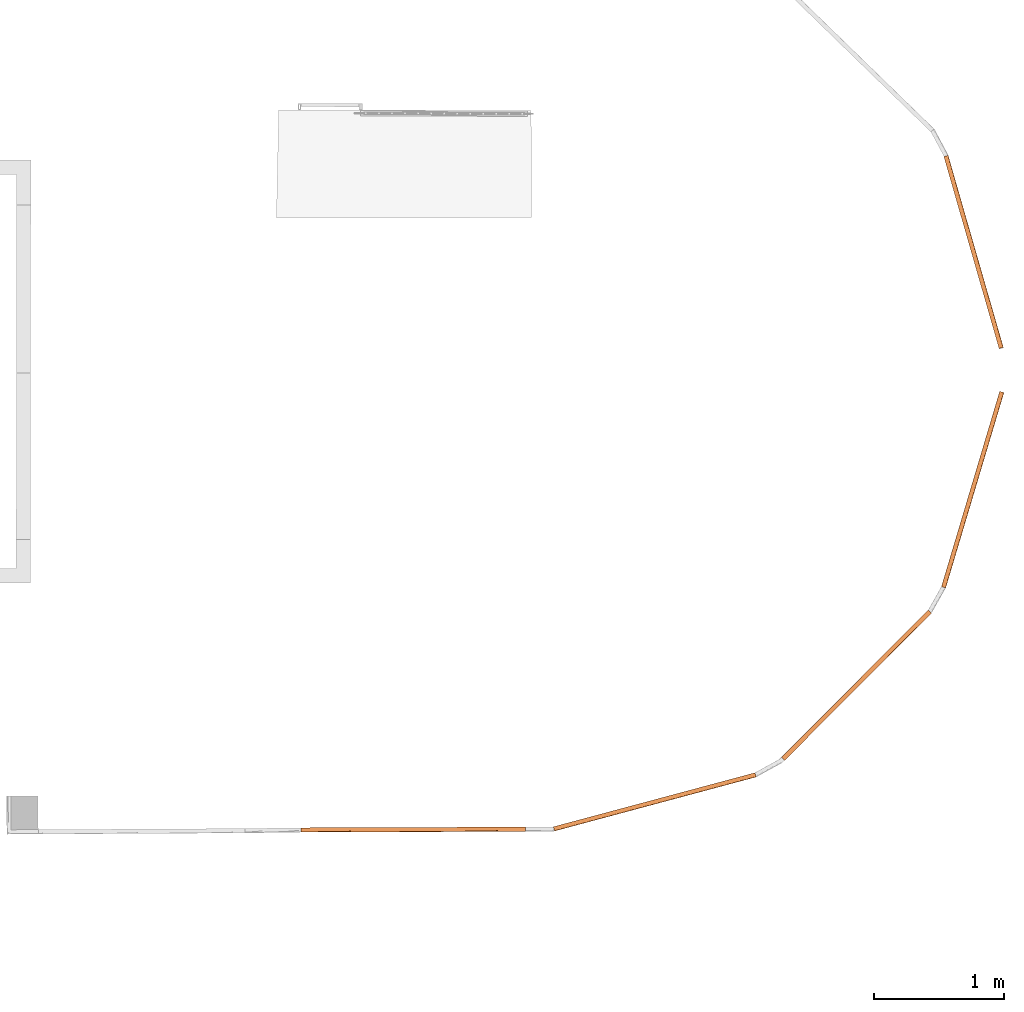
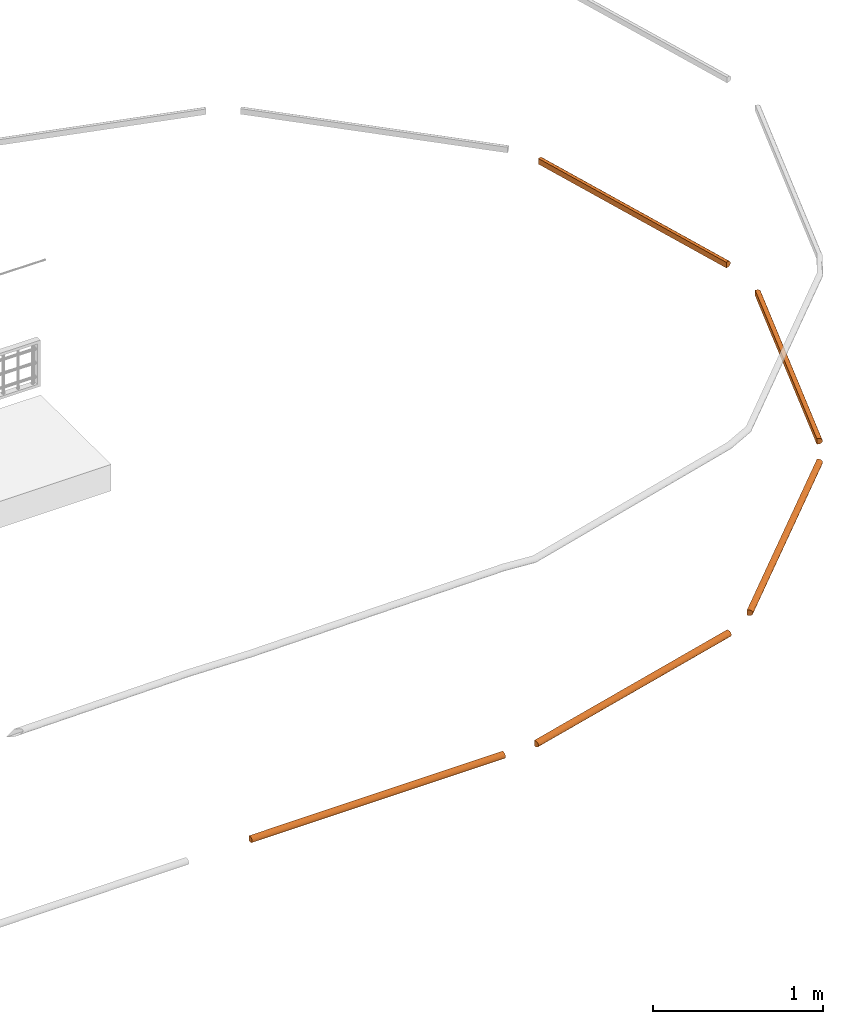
# One storey, part 31 of 39: 5 proxies.
"""IFC2X3 building model written with IfcOpenShell, lengths in centimetres."""

from ifc_helpers import new_model, entity, si_unit, converted_unit, point, direction, frame, frame_2d, origin, origin_with_axes, place, context, subcontext, project, spatial, polyline, circle_curve, trimmed, segment, composite_curve, outline, extrude, source, transform, mapped, material, type_object, element, save


model = new_model("IFC2X3")

# Units and contexts
model_context = context("Model", 3, precision=0.0001, world=origin(), true_north=direction((0.225632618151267, 0.974212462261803, 0.0)))
body_context = subcontext(model_context, "Body", "Model", "MODEL_VIEW")
ifc_project = project(units=[si_unit("LENGTHUNIT", "METRE", prefix="CENTI"), si_unit("AREAUNIT", "SQUARE_METRE", prefix="CENTI"), si_unit("VOLUMEUNIT", "CUBIC_METRE", prefix="CENTI"), converted_unit("PLANEANGLEUNIT", "DEGREE", entity("IfcRatioMeasure", 0.0174532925), si_unit("PLANEANGLEUNIT", "RADIAN"), dimensions=[0, 0, 0, 0, 0, 0, 0])], contexts=[model_context])

# Site, building, storey
site_placement = place(None, origin_with_axes())
site = spatial("IfcSite", under=ifc_project, at=site_placement, Name="Default Site", CompositionType="ELEMENT")
building_placement = place(site_placement, origin_with_axes())
building = spatial("IfcBuilding", under=site, at=building_placement, Name="Default Building", CompositionType="ELEMENT")
storey_placement = place(building_placement, frame((0.0, 0.0, 1088.91037418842), z_axis=(0.0, 0.0, 1.0), x_axis=(1.0, 0.0, 0.0)))
storey = spatial("IfcBuildingStorey", under=building, at=storey_placement, Name="Mezzanine", CompositionType="ELEMENT", Elevation=1088.91037418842)

# Proxies
ifc_material = material(Name="Aluminium mat")
building_element_proxy_type = type_object("IfcBuildingElementProxyType", Name="Base arrondi", PredefinedType="NOTDEFINED", material=ifc_material)
shared_shape = source(origin_with_axes(), body_context, "Body", "SweptSolid", [
    extrude(outline(composite_curve([segment(trimmed(circle_curve(frame_2d((-0.104143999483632, 3.46944695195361e-16), x_axis=(1.0, 0.0)), 1.99994458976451), [point((-0.0164066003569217, -1.99801914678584))], [point((-0.0164066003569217, 1.99801914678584))], True, "CARTESIAN"), True, "CONTINUOUS"), segment(polyline([(-0.0164066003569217, 1.99801914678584), (-1.53215921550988, 1.99801914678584), (-1.53215921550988, -1.99801914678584), (-0.0164066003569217, -1.99801914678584)]), True, "CONTINUOUS")], self_intersect=False)), origin_with_axes(), (0.0, 0.0, 1.0), 100.0),
])
proxy_1_placement = place(storey_placement, frame((1653.23816123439, -563.59056571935, 2.99998805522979), z_axis=(0.285792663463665, 0.95829147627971, 0.0), x_axis=(0.958291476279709, -0.285792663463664, 1.22464679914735e-16)))
element("IfcBuildingElementProxy", 1, at=proxy_1_placement, inside=storey, type_object=building_element_proxy_type, material=ifc_material, Name="Extrusion (solide) 1547951", context=body_context, shape_type="MappedRepresentation", body=[
    mapped(shared_shape, transform((1.53215921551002, -1.9980191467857, 1.77635683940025e-13), x_axis=(1.0, 2.46519032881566e-32, -5.55111512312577e-17), y_axis=(2.46519032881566e-32, 1.0, 0.0), z_axis=(3.54792318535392e-17, 3.93898600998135e-33, -1.0), scale=1.0, scale2=1.0, scale3=1.56460972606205, uniform=False)),
])
proxy_2_placement = place(storey_placement, frame((1598.37511636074, -731.452906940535, 2.99998805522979), z_axis=(0.705788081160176, 0.70842302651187, 0.0), x_axis=(0.70842302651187, -0.705788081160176, 1.22464679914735e-16)))
element("IfcBuildingElementProxy", 2, at=proxy_2_placement, inside=storey, type_object=building_element_proxy_type, material=ifc_material, Name="Extrusion (solide) 1547952", context=body_context, shape_type="MappedRepresentation", body=[
    mapped(shared_shape, transform((1.53215921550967, -1.99801914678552, -1.77635683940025e-13), x_axis=(1.0, 0.0, 0.0), y_axis=(0.0, 1.0, 0.0), z_axis=(-6.95294379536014e-17, -7.71931829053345e-33, -1.0), scale=1.0, scale2=1.0, scale3=1.59676686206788, uniform=False)),
])
proxy_3_placement = place(storey_placement, frame((1610.35030189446, -383.374478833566, 2.99998805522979), z_axis=(-0.276453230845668, 0.961027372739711, -6.16297582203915e-33), x_axis=(0.961027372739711, 0.276453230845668, 1.22464679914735e-16)))
element("IfcBuildingElementProxy", 3, at=proxy_3_placement, inside=storey, type_object=building_element_proxy_type, material=ifc_material, Name="Extrusion (solide) 1547950", context=body_context, shape_type="MappedRepresentation", body=[
    mapped(shared_shape, transform((1.53215921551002, -1.99801914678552, -1.77635683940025e-13), x_axis=(1.0, 2.46519032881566e-32, 5.55111512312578e-17), y_axis=(2.46519032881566e-32, 1.0, 0.0), z_axis=(-3.62039398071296e-17, 0.0, -1.0), scale=1.0, scale2=1.0, scale3=1.5332903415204, uniform=False)),
])
proxy_4_placement = place(storey_placement, frame((1465.3031728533, -856.430115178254, 2.99998805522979), z_axis=(0.965884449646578, 0.258973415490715, 0.0), x_axis=(0.258973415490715, -0.965884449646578, 1.22464679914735e-16)))
element("IfcBuildingElementProxy", 4, at=proxy_4_placement, inside=storey, type_object=building_element_proxy_type, material=ifc_material, Name="Extrusion (solide) 1547953", context=body_context, shape_type="MappedRepresentation", body=[
    mapped(shared_shape, transform((1.53215921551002, -1.9980191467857, 0.0), x_axis=(1.0, 0.0, 5.55111512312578e-17), y_axis=(0.0, 1.0, 0.0), z_axis=(-6.92937126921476e-17, -1.53017170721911e-33, -1.0), scale=1.0, scale2=1.0, scale3=1.60219878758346, uniform=False)),
])
proxy_5_placement = place(storey_placement, frame((1288.96774990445, -898.092879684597, 2.99998805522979), z_axis=(0.999994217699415, 0.00340067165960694, -4.81482486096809e-35), x_axis=(0.00340067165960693, -0.999994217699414, 1.22464679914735e-16)))
element("IfcBuildingElementProxy", 5, at=proxy_5_placement, inside=storey, type_object=building_element_proxy_type, material=ifc_material, Name="Extrusion (solide) 1547954", context=body_context, shape_type="MappedRepresentation", body=[
    mapped(shared_shape, transform((1.53215921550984, -1.9980191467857, 1.77635683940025e-13), x_axis=(1.0, 0.0, -4.33680868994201e-19), y_axis=(-2.46519032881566e-32, 1.0, 4.81482486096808e-35), z_axis=(1.17929197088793e-50, -9.62964972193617e-35, -1.0), scale=1.0, scale2=1.0, scale3=1.72083605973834, uniform=False)),
])

save(model, "model.ifc")
